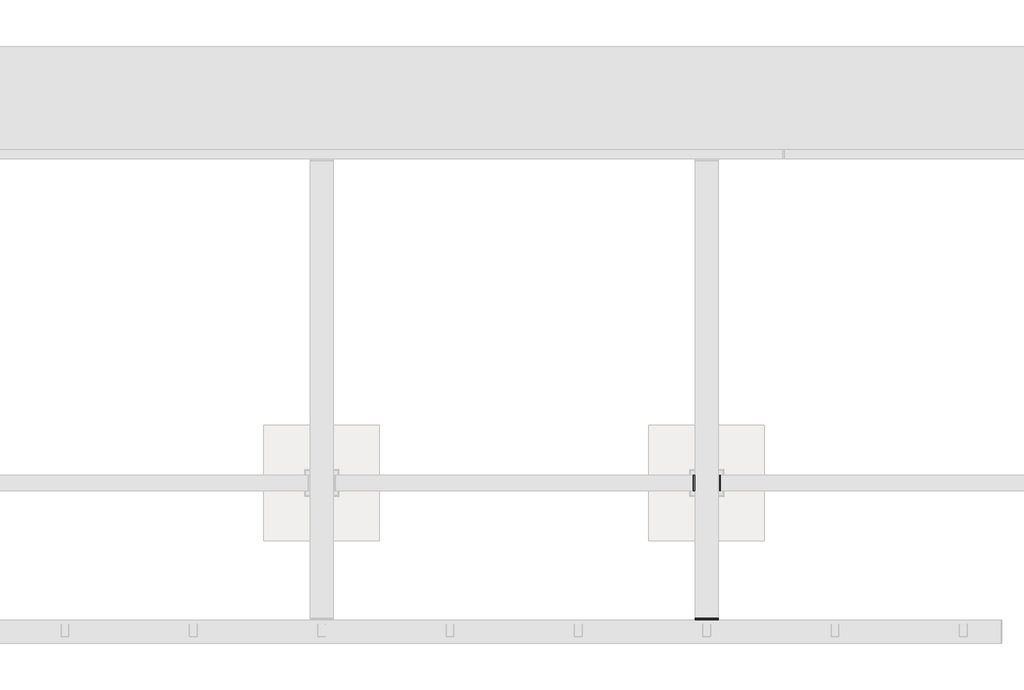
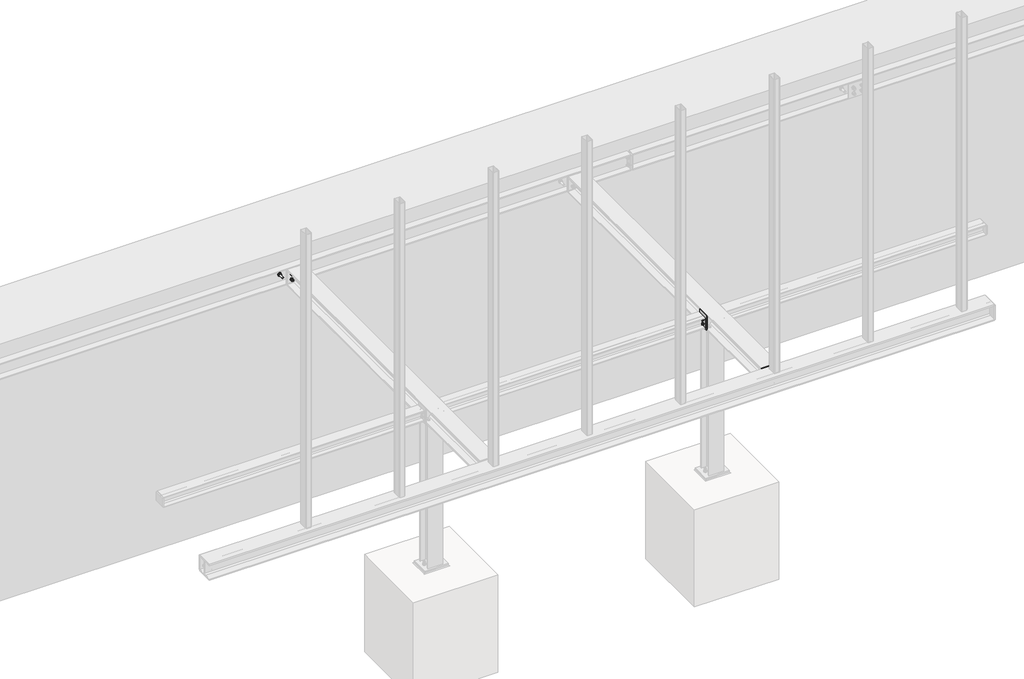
# One storey, part 7 of 31: 10 proxies.
"""IFC4 building model written with IfcOpenShell, lengths in millimetres."""

from ifc_helpers import new_model, si_unit, point, frame, frame_2d, origin, place, context, project, spatial, polyline, circle_curve, trimmed, segment, composite_curve, outline, extrude, element, save

model = new_model("IFC4")

# Units and contexts
model_context = context("Model", 3, world=origin())
ifc_project = project(units=[si_unit("LENGTHUNIT", "METRE", prefix="MILLI")], contexts=[model_context])

# Site, building, storey
site = spatial("IfcSite", under=ifc_project)
building = spatial("IfcBuilding", under=site)
storey = spatial("IfcBuildingStorey", under=building, Name="Základy", Elevation=-1200.0)

# Proxies
placement = place(None, origin())
element("IfcBuildingElementProxy", 1, Name="PLECH", ObjectType="PLECH", at=placement, inside=storey, context=model_context, shape_type="SweptSolid", body=[
    extrude(outline(polyline([(5940.0, 1200.0), (5940.0, 1320.0), (5950.0, 1320.0), (5950.0, 1200.0), (5940.0, 1200.0)])), frame((0.0, 0.0, -299.0), z_axis=(0.0, 0.0, 1.0), x_axis=(1.0, 0.0, 0.0)), (0.0, 0.0, 1.0), 98.0),
])
element("IfcBuildingElementProxy", 2, Name="PLECH", ObjectType="PLECH", at=placement, inside=storey, context=model_context, shape_type="SweptSolid", body=[
    extrude(outline(polyline([(6150.0, 1200.0), (6150.0, 1320.0), (6160.0, 1320.0), (6160.0, 1200.0), (6150.0, 1200.0)])), frame((0.0, 0.0, -299.0), z_axis=(0.0, 0.0, 1.0), x_axis=(1.0, 0.0, 0.0)), (0.0, 0.0, 1.0), 98.0),
])
element("IfcBuildingElementProxy", 3, Name="PLECH", ObjectType="PLECH", at=placement, inside=storey, context=model_context, shape_type="SweptSolid", body=[
    extrude(outline(polyline([(5950.0, 1200.0), (5950.0, 1320.0), (5960.0, 1320.0), (5960.0, 1200.0), (5950.0, 1200.0)])), frame((0.0, 0.0, -332.0), z_axis=(0.0, 0.0, 1.0), x_axis=(1.0, 0.0, 0.0)), (0.0, 0.0, 1.0), 164.0),
])
element("IfcBuildingElementProxy", 4, Name="PLECH", ObjectType="PLECH", at=placement, inside=storey, context=model_context, shape_type="SweptSolid", body=[
    extrude(outline(polyline([(5960.0, 210.0), (6140.0, 210.0), (6140.0, 200.0), (5960.0, 200.0), (5960.0, 210.0)])), frame((0.0, 0.0, -332.0), z_axis=(0.0, 0.0, 1.0), x_axis=(1.0, 0.0, 0.0)), (0.0, 0.0, 1.0), 164.0),
])
element("IfcBuildingElementProxy", 5, Name="PLECH", ObjectType="PLECH", at=placement, inside=storey, context=model_context, shape_type="SweptSolid", body=[
    extrude(outline(composite_curve([segment(polyline([(190.0, -174.0), (190.0, -326.0), (124.25, -326.0)]), True, "CONTINUOUS"), segment(trimmed(circle_curve(frame_2d((104.25, -326.0)), 20.0), [point((124.25, -326.0))], [point((104.25, -306.0))], True, "CARTESIAN"), True, "CONTINUOUS"), segment(polyline([(104.25, -306.0), (104.25, -194.0)]), True, "CONTINUOUS"), segment(trimmed(circle_curve(frame_2d((104.25, -174.0)), 20.0), [point((104.25, -194.0))], [point((124.25, -174.0))], True, "CARTESIAN"), True, "CONTINUOUS"), segment(polyline([(124.25, -174.0), (190.0, -174.0)]), True, "CONTINUOUS")], self_intersect=False)), frame((6046.0, 0.0, 0.0), z_axis=(1.0, 0.0, 0.0), x_axis=(0.0, 1.0, 0.0)), (0.0, 0.0, 1.0), 8.0),
])
element("IfcBuildingElementProxy", 6, Name="PLECH", ObjectType="PLECH", at=placement, inside=storey, context=model_context, shape_type="SweptSolid", body=[
    extrude(outline(polyline([(5960.0, 200.0), (6140.0, 200.0), (6140.0, 190.0), (5960.0, 190.0), (5960.0, 200.0)])), frame((0.0, 0.0, -332.0), z_axis=(0.0, 0.0, 1.0), x_axis=(1.0, 0.0, 0.0)), (0.0, 0.0, 1.0), 164.0),
])
element("IfcBuildingElementProxy", 7, Name="Bolt assembly", ObjectType="Bolt assembly", at=placement, inside=storey, context=model_context, shape_type="SweptSolid", body=[
    extrude(outline(composite_curve([segment(trimmed(circle_curve(frame_2d((1230.0, -225.0)), 6.5), [point((1230.0, -231.5))], [point((1230.0, -218.5))], False, "CARTESIAN"), True, "CONTINUOUS"), segment(trimmed(circle_curve(frame_2d((1230.0, -225.0)), 6.5), [point((1230.0, -218.5))], [point((1230.0, -231.5))], False, "CARTESIAN"), True, "CONTINUOUS")], self_intersect=False)), frame((5949.9, 0.0, 0.0), z_axis=(1.0, 0.0, 0.0), x_axis=(0.0, 1.0, 0.0)), (0.0, 0.0, 1.0), 10.0),
    extrude(outline(polyline([(1230.0, -235.3923048), (1221.0, -230.1961524), (1221.0, -219.8038476), (1230.0, -214.6076952), (1239.0, -219.8038476), (1239.0, -230.1961524), (1230.0, -235.3923048)])), frame((5962.5, 0.0, 0.0), z_axis=(1.0, 0.0, 0.0), x_axis=(0.0, 1.0, 0.0)), (0.0, 0.0, 1.0), 7.5),
    extrude(outline(composite_curve([segment(trimmed(circle_curve(frame_2d((1230.0, -225.0)), 6.0), [point((1230.0, -231.0))], [point((1230.0, -219.0))], False, "CARTESIAN"), True, "CONTINUOUS"), segment(trimmed(circle_curve(frame_2d((1230.0, -225.0)), 6.0), [point((1230.0, -219.0))], [point((1230.0, -231.0))], False, "CARTESIAN"), True, "CONTINUOUS")], self_intersect=False)), frame((5922.5, 0.0, 0.0), z_axis=(1.0, 0.0, 0.0), x_axis=(0.0, 1.0, 0.0)), (0.0, 0.0, 1.0), 40.0),
    extrude(outline(composite_curve([segment(trimmed(circle_curve(frame_2d((1230.0, -225.0)), 12.0), [point((1230.0, -237.0))], [point((1230.0, -213.0))], False, "CARTESIAN"), True, "CONTINUOUS"), segment(trimmed(circle_curve(frame_2d((1230.0, -225.0)), 12.0), [point((1230.0, -213.0))], [point((1230.0, -237.0))], False, "CARTESIAN"), True, "CONTINUOUS")], self_intersect=False)), frame((5960.0, 0.0, 0.0), z_axis=(1.0, 0.0, 0.0), x_axis=(0.0, 1.0, 0.0)), (0.0, 0.0, 1.0), 2.5),
    extrude(outline(composite_curve([segment(trimmed(circle_curve(frame_2d((1230.0, -225.0)), 12.0), [point((1230.0, -237.0))], [point((1230.0, -213.0))], False, "CARTESIAN"), True, "CONTINUOUS"), segment(trimmed(circle_curve(frame_2d((1230.0, -225.0)), 12.0), [point((1230.0, -213.0))], [point((1230.0, -237.0))], False, "CARTESIAN"), True, "CONTINUOUS")], self_intersect=False)), frame((5937.5, 0.0, 0.0), z_axis=(1.0, 0.0, 0.0), x_axis=(0.0, 1.0, 0.0)), (0.0, 0.0, 1.0), 2.5),
    extrude(outline(polyline([(1230.0, -235.9696551), (1220.5, -230.4848276), (1220.5, -219.5151724), (1230.0, -214.0303449), (1239.5, -219.5151724), (1239.5, -230.4848276), (1230.0, -235.9696551)])), frame((5927.5, 0.0, 0.0), z_axis=(1.0, 0.0, 0.0), x_axis=(0.0, 1.0, 0.0)), (0.0, 0.0, 1.0), 10.0),
    extrude(outline(composite_curve([segment(trimmed(circle_curve(frame_2d((1230.0, -225.0)), 6.5), [point((1230.0, -231.5))], [point((1230.0, -218.5))], False, "CARTESIAN"), True, "CONTINUOUS"), segment(trimmed(circle_curve(frame_2d((1230.0, -225.0)), 6.5), [point((1230.0, -218.5))], [point((1230.0, -231.5))], False, "CARTESIAN"), True, "CONTINUOUS")], self_intersect=False)), frame((5940.0, 0.0, 0.0), z_axis=(1.0, 0.0, 0.0), x_axis=(0.0, 1.0, 0.0)), (0.0, 0.0, 1.0), 10.1),
    extrude(outline(composite_curve([segment(trimmed(circle_curve(frame_2d((1230.0, -275.0)), 6.5), [point((1230.0, -281.5))], [point((1230.0, -268.5))], False, "CARTESIAN"), True, "CONTINUOUS"), segment(trimmed(circle_curve(frame_2d((1230.0, -275.0)), 6.5), [point((1230.0, -268.5))], [point((1230.0, -281.5))], False, "CARTESIAN"), True, "CONTINUOUS")], self_intersect=False)), frame((5949.9, 0.0, 0.0), z_axis=(1.0, 0.0, 0.0), x_axis=(0.0, 1.0, 0.0)), (0.0, 0.0, 1.0), 10.0),
    extrude(outline(polyline([(1230.0, -285.3923048), (1221.0, -280.1961524), (1221.0, -269.8038476), (1230.0, -264.6076952), (1239.0, -269.8038476), (1239.0, -280.1961524), (1230.0, -285.3923048)])), frame((5962.5, 0.0, 0.0), z_axis=(1.0, 0.0, 0.0), x_axis=(0.0, 1.0, 0.0)), (0.0, 0.0, 1.0), 7.5),
    extrude(outline(composite_curve([segment(trimmed(circle_curve(frame_2d((1230.0, -275.0)), 6.0), [point((1230.0, -281.0))], [point((1230.0, -269.0))], False, "CARTESIAN"), True, "CONTINUOUS"), segment(trimmed(circle_curve(frame_2d((1230.0, -275.0)), 6.0), [point((1230.0, -269.0))], [point((1230.0, -281.0))], False, "CARTESIAN"), True, "CONTINUOUS")], self_intersect=False)), frame((5922.5, 0.0, 0.0), z_axis=(1.0, 0.0, 0.0), x_axis=(0.0, 1.0, 0.0)), (0.0, 0.0, 1.0), 40.0),
    extrude(outline(composite_curve([segment(trimmed(circle_curve(frame_2d((1230.0, -275.0)), 12.0), [point((1230.0, -287.0))], [point((1230.0, -263.0))], False, "CARTESIAN"), True, "CONTINUOUS"), segment(trimmed(circle_curve(frame_2d((1230.0, -275.0)), 12.0), [point((1230.0, -263.0))], [point((1230.0, -287.0))], False, "CARTESIAN"), True, "CONTINUOUS")], self_intersect=False)), frame((5960.0, 0.0, 0.0), z_axis=(1.0, 0.0, 0.0), x_axis=(0.0, 1.0, 0.0)), (0.0, 0.0, 1.0), 2.5),
    extrude(outline(composite_curve([segment(trimmed(circle_curve(frame_2d((1230.0, -275.0)), 12.0), [point((1230.0, -287.0))], [point((1230.0, -263.0))], False, "CARTESIAN"), True, "CONTINUOUS"), segment(trimmed(circle_curve(frame_2d((1230.0, -275.0)), 12.0), [point((1230.0, -263.0))], [point((1230.0, -287.0))], False, "CARTESIAN"), True, "CONTINUOUS")], self_intersect=False)), frame((5937.5, 0.0, 0.0), z_axis=(1.0, 0.0, 0.0), x_axis=(0.0, 1.0, 0.0)), (0.0, 0.0, 1.0), 2.5),
    extrude(outline(polyline([(1230.0, -285.9696551), (1220.5, -280.4848276), (1220.5, -269.5151724), (1230.0, -264.0303449), (1239.5, -269.5151724), (1239.5, -280.4848276), (1230.0, -285.9696551)])), frame((5927.5, 0.0, 0.0), z_axis=(1.0, 0.0, 0.0), x_axis=(0.0, 1.0, 0.0)), (0.0, 0.0, 1.0), 10.0),
    extrude(outline(composite_curve([segment(trimmed(circle_curve(frame_2d((1230.0, -275.0)), 6.5), [point((1230.0, -281.5))], [point((1230.0, -268.5))], False, "CARTESIAN"), True, "CONTINUOUS"), segment(trimmed(circle_curve(frame_2d((1230.0, -275.0)), 6.5), [point((1230.0, -268.5))], [point((1230.0, -281.5))], False, "CARTESIAN"), True, "CONTINUOUS")], self_intersect=False)), frame((5940.0, 0.0, 0.0), z_axis=(1.0, 0.0, 0.0), x_axis=(0.0, 1.0, 0.0)), (0.0, 0.0, 1.0), 10.1),
    extrude(outline(composite_curve([segment(trimmed(circle_curve(frame_2d((1290.0, -225.0)), 6.5), [point((1290.0, -231.5))], [point((1290.0, -218.5))], False, "CARTESIAN"), True, "CONTINUOUS"), segment(trimmed(circle_curve(frame_2d((1290.0, -225.0)), 6.5), [point((1290.0, -218.5))], [point((1290.0, -231.5))], False, "CARTESIAN"), True, "CONTINUOUS")], self_intersect=False)), frame((5949.9, 0.0, 0.0), z_axis=(1.0, 0.0, 0.0), x_axis=(0.0, 1.0, 0.0)), (0.0, 0.0, 1.0), 10.0),
    extrude(outline(polyline([(1290.0, -235.3923048), (1281.0, -230.1961524), (1281.0, -219.8038476), (1290.0, -214.6076952), (1299.0, -219.8038476), (1299.0, -230.1961524), (1290.0, -235.3923048)])), frame((5962.5, 0.0, 0.0), z_axis=(1.0, 0.0, 0.0), x_axis=(0.0, 1.0, 0.0)), (0.0, 0.0, 1.0), 7.5),
    extrude(outline(composite_curve([segment(trimmed(circle_curve(frame_2d((1290.0, -225.0)), 6.0), [point((1290.0, -231.0))], [point((1290.0, -219.0))], False, "CARTESIAN"), True, "CONTINUOUS"), segment(trimmed(circle_curve(frame_2d((1290.0, -225.0)), 6.0), [point((1290.0, -219.0))], [point((1290.0, -231.0))], False, "CARTESIAN"), True, "CONTINUOUS")], self_intersect=False)), frame((5922.5, 0.0, 0.0), z_axis=(1.0, 0.0, 0.0), x_axis=(0.0, 1.0, 0.0)), (0.0, 0.0, 1.0), 40.0),
    extrude(outline(composite_curve([segment(trimmed(circle_curve(frame_2d((1290.0, -225.0)), 12.0), [point((1290.0, -237.0))], [point((1290.0, -213.0))], False, "CARTESIAN"), True, "CONTINUOUS"), segment(trimmed(circle_curve(frame_2d((1290.0, -225.0)), 12.0), [point((1290.0, -213.0))], [point((1290.0, -237.0))], False, "CARTESIAN"), True, "CONTINUOUS")], self_intersect=False)), frame((5960.0, 0.0, 0.0), z_axis=(1.0, 0.0, 0.0), x_axis=(0.0, 1.0, 0.0)), (0.0, 0.0, 1.0), 2.5),
    extrude(outline(composite_curve([segment(trimmed(circle_curve(frame_2d((1290.0, -225.0)), 12.0), [point((1290.0, -237.0))], [point((1290.0, -213.0))], False, "CARTESIAN"), True, "CONTINUOUS"), segment(trimmed(circle_curve(frame_2d((1290.0, -225.0)), 12.0), [point((1290.0, -213.0))], [point((1290.0, -237.0))], False, "CARTESIAN"), True, "CONTINUOUS")], self_intersect=False)), frame((5937.5, 0.0, 0.0), z_axis=(1.0, 0.0, 0.0), x_axis=(0.0, 1.0, 0.0)), (0.0, 0.0, 1.0), 2.5),
    extrude(outline(polyline([(1290.0, -235.9696551), (1280.5, -230.4848276), (1280.5, -219.5151724), (1290.0, -214.0303449), (1299.5, -219.5151724), (1299.5, -230.4848276), (1290.0, -235.9696551)])), frame((5927.5, 0.0, 0.0), z_axis=(1.0, 0.0, 0.0), x_axis=(0.0, 1.0, 0.0)), (0.0, 0.0, 1.0), 10.0),
    extrude(outline(composite_curve([segment(trimmed(circle_curve(frame_2d((1290.0, -225.0)), 6.5), [point((1290.0, -231.5))], [point((1290.0, -218.5))], False, "CARTESIAN"), True, "CONTINUOUS"), segment(trimmed(circle_curve(frame_2d((1290.0, -225.0)), 6.5), [point((1290.0, -218.5))], [point((1290.0, -231.5))], False, "CARTESIAN"), True, "CONTINUOUS")], self_intersect=False)), frame((5940.0, 0.0, 0.0), z_axis=(1.0, 0.0, 0.0), x_axis=(0.0, 1.0, 0.0)), (0.0, 0.0, 1.0), 10.1),
    extrude(outline(composite_curve([segment(trimmed(circle_curve(frame_2d((1290.0, -275.0)), 6.5), [point((1290.0, -281.5))], [point((1290.0, -268.5))], False, "CARTESIAN"), True, "CONTINUOUS"), segment(trimmed(circle_curve(frame_2d((1290.0, -275.0)), 6.5), [point((1290.0, -268.5))], [point((1290.0, -281.5))], False, "CARTESIAN"), True, "CONTINUOUS")], self_intersect=False)), frame((5949.9, 0.0, 0.0), z_axis=(1.0, 0.0, 0.0), x_axis=(0.0, 1.0, 0.0)), (0.0, 0.0, 1.0), 10.0),
    extrude(outline(polyline([(1290.0, -285.3923048), (1281.0, -280.1961524), (1281.0, -269.8038476), (1290.0, -264.6076952), (1299.0, -269.8038476), (1299.0, -280.1961524), (1290.0, -285.3923048)])), frame((5962.5, 0.0, 0.0), z_axis=(1.0, 0.0, 0.0), x_axis=(0.0, 1.0, 0.0)), (0.0, 0.0, 1.0), 7.5),
    extrude(outline(composite_curve([segment(trimmed(circle_curve(frame_2d((1290.0, -275.0)), 6.0), [point((1290.0, -281.0))], [point((1290.0, -269.0))], False, "CARTESIAN"), True, "CONTINUOUS"), segment(trimmed(circle_curve(frame_2d((1290.0, -275.0)), 6.0), [point((1290.0, -269.0))], [point((1290.0, -281.0))], False, "CARTESIAN"), True, "CONTINUOUS")], self_intersect=False)), frame((5922.5, 0.0, 0.0), z_axis=(1.0, 0.0, 0.0), x_axis=(0.0, 1.0, 0.0)), (0.0, 0.0, 1.0), 40.0),
    extrude(outline(composite_curve([segment(trimmed(circle_curve(frame_2d((1290.0, -275.0)), 12.0), [point((1290.0, -287.0))], [point((1290.0, -263.0))], False, "CARTESIAN"), True, "CONTINUOUS"), segment(trimmed(circle_curve(frame_2d((1290.0, -275.0)), 12.0), [point((1290.0, -263.0))], [point((1290.0, -287.0))], False, "CARTESIAN"), True, "CONTINUOUS")], self_intersect=False)), frame((5960.0, 0.0, 0.0), z_axis=(1.0, 0.0, 0.0), x_axis=(0.0, 1.0, 0.0)), (0.0, 0.0, 1.0), 2.5),
    extrude(outline(composite_curve([segment(trimmed(circle_curve(frame_2d((1290.0, -275.0)), 12.0), [point((1290.0, -287.0))], [point((1290.0, -263.0))], False, "CARTESIAN"), True, "CONTINUOUS"), segment(trimmed(circle_curve(frame_2d((1290.0, -275.0)), 12.0), [point((1290.0, -263.0))], [point((1290.0, -287.0))], False, "CARTESIAN"), True, "CONTINUOUS")], self_intersect=False)), frame((5937.5, 0.0, 0.0), z_axis=(1.0, 0.0, 0.0), x_axis=(0.0, 1.0, 0.0)), (0.0, 0.0, 1.0), 2.5),
    extrude(outline(polyline([(1290.0, -285.9696551), (1280.5, -280.4848276), (1280.5, -269.5151724), (1290.0, -264.0303449), (1299.5, -269.5151724), (1299.5, -280.4848276), (1290.0, -285.9696551)])), frame((5927.5, 0.0, 0.0), z_axis=(1.0, 0.0, 0.0), x_axis=(0.0, 1.0, 0.0)), (0.0, 0.0, 1.0), 10.0),
    extrude(outline(composite_curve([segment(trimmed(circle_curve(frame_2d((1290.0, -275.0)), 6.5), [point((1290.0, -281.5))], [point((1290.0, -268.5))], False, "CARTESIAN"), True, "CONTINUOUS"), segment(trimmed(circle_curve(frame_2d((1290.0, -275.0)), 6.5), [point((1290.0, -268.5))], [point((1290.0, -281.5))], False, "CARTESIAN"), True, "CONTINUOUS")], self_intersect=False)), frame((5940.0, 0.0, 0.0), z_axis=(1.0, 0.0, 0.0), x_axis=(0.0, 1.0, 0.0)), (0.0, 0.0, 1.0), 10.1),
])
element("IfcBuildingElementProxy", 8, Name="Bolt assembly", ObjectType="Bolt assembly", at=placement, inside=storey, context=model_context, shape_type="SweptSolid", body=[
    extrude(outline(composite_curve([segment(trimmed(circle_curve(frame_2d((-220.0, 3005.0)), 9.0), [point((-220.0, 3014.0))], [point((-220.0, 2996.0))], False, "CARTESIAN"), True, "CONTINUOUS"), segment(trimmed(circle_curve(frame_2d((-220.0, 3005.0)), 9.0), [point((-220.0, 2996.0))], [point((-220.0, 3014.0))], False, "CARTESIAN"), True, "CONTINUOUS")], self_intersect=False)), frame((0.0, 3774.9, 0.0), z_axis=(0.0, 1.0, 0.0), x_axis=(0.0, 0.0, 1.0)), (0.0, 0.0, 1.0), 10.0),
    extrude(outline(polyline([(-220.0, 3018.8564065), (-208.0, 3011.9282032), (-208.0, 2998.0717968), (-220.0, 2991.1435935), (-232.0, 2998.0717968), (-232.0, 3011.9282032), (-220.0, 3018.8564065)])), frame((0.0, 3788.0, 0.0), z_axis=(0.0, 1.0, 0.0), x_axis=(0.0, 0.0, 1.0)), (0.0, 0.0, 1.0), 10.0),
    extrude(outline(composite_curve([segment(trimmed(circle_curve(frame_2d((-220.0, 3005.0)), 8.0), [point((-220.0, 3013.0))], [point((-220.0, 2997.0))], False, "CARTESIAN"), True, "CONTINUOUS"), segment(trimmed(circle_curve(frame_2d((-220.0, 3005.0)), 8.0), [point((-220.0, 2997.0))], [point((-220.0, 3013.0))], False, "CARTESIAN"), True, "CONTINUOUS")], self_intersect=False)), frame((0.0, 3738.0, 0.0), z_axis=(0.0, 1.0, 0.0), x_axis=(0.0, 0.0, 1.0)), (0.0, 0.0, 1.0), 50.0),
    extrude(outline(composite_curve([segment(trimmed(circle_curve(frame_2d((-220.0, 3005.0)), 15.0), [point((-220.0, 3020.0))], [point((-220.0, 2990.0))], False, "CARTESIAN"), True, "CONTINUOUS"), segment(trimmed(circle_curve(frame_2d((-220.0, 3005.0)), 15.0), [point((-220.0, 2990.0))], [point((-220.0, 3020.0))], False, "CARTESIAN"), True, "CONTINUOUS")], self_intersect=False)), frame((0.0, 3785.0, 0.0), z_axis=(0.0, 1.0, 0.0), x_axis=(0.0, 0.0, 1.0)), (0.0, 0.0, 1.0), 3.0),
    extrude(outline(composite_curve([segment(trimmed(circle_curve(frame_2d((-220.0, 3005.0)), 15.0), [point((-220.0, 3020.0))], [point((-220.0, 2990.0))], False, "CARTESIAN"), True, "CONTINUOUS"), segment(trimmed(circle_curve(frame_2d((-220.0, 3005.0)), 15.0), [point((-220.0, 2990.0))], [point((-220.0, 3020.0))], False, "CARTESIAN"), True, "CONTINUOUS")], self_intersect=False)), frame((0.0, 3764.0, 0.0), z_axis=(0.0, 1.0, 0.0), x_axis=(0.0, 0.0, 1.0)), (0.0, 0.0, 1.0), 3.0),
    extrude(outline(polyline([(-220.0, 3020.4441197), (-206.625, 3012.7220599), (-206.625, 2997.2779401), (-220.0, 2989.5558803), (-233.375, 2997.2779401), (-233.375, 3012.7220599), (-220.0, 3020.4441197)])), frame((0.0, 3751.0, 0.0), z_axis=(0.0, 1.0, 0.0), x_axis=(0.0, 0.0, 1.0)), (0.0, 0.0, 1.0), 13.0),
    extrude(outline(composite_curve([segment(trimmed(circle_curve(frame_2d((-220.0, 3005.0)), 9.0), [point((-220.0, 3014.0))], [point((-220.0, 2996.0))], False, "CARTESIAN"), True, "CONTINUOUS"), segment(trimmed(circle_curve(frame_2d((-220.0, 3005.0)), 9.0), [point((-220.0, 2996.0))], [point((-220.0, 3014.0))], False, "CARTESIAN"), True, "CONTINUOUS")], self_intersect=False)), frame((0.0, 3767.0, 0.0), z_axis=(0.0, 1.0, 0.0), x_axis=(0.0, 0.0, 1.0)), (0.0, 0.0, 1.0), 8.1),
    extrude(outline(composite_curve([segment(trimmed(circle_curve(frame_2d((-220.0, 3095.0)), 9.0), [point((-220.0, 3104.0))], [point((-220.0, 3086.0))], False, "CARTESIAN"), True, "CONTINUOUS"), segment(trimmed(circle_curve(frame_2d((-220.0, 3095.0)), 9.0), [point((-220.0, 3086.0))], [point((-220.0, 3104.0))], False, "CARTESIAN"), True, "CONTINUOUS")], self_intersect=False)), frame((0.0, 3774.9, 0.0), z_axis=(0.0, 1.0, 0.0), x_axis=(0.0, 0.0, 1.0)), (0.0, 0.0, 1.0), 10.0),
    extrude(outline(polyline([(-220.0, 3108.8564065), (-208.0, 3101.9282032), (-208.0, 3088.0717968), (-220.0, 3081.1435935), (-232.0, 3088.0717968), (-232.0, 3101.9282032), (-220.0, 3108.8564065)])), frame((0.0, 3788.0, 0.0), z_axis=(0.0, 1.0, 0.0), x_axis=(0.0, 0.0, 1.0)), (0.0, 0.0, 1.0), 10.0),
    extrude(outline(composite_curve([segment(trimmed(circle_curve(frame_2d((-220.0, 3095.0)), 8.0), [point((-220.0, 3103.0))], [point((-220.0, 3087.0))], False, "CARTESIAN"), True, "CONTINUOUS"), segment(trimmed(circle_curve(frame_2d((-220.0, 3095.0)), 8.0), [point((-220.0, 3087.0))], [point((-220.0, 3103.0))], False, "CARTESIAN"), True, "CONTINUOUS")], self_intersect=False)), frame((0.0, 3738.0, 0.0), z_axis=(0.0, 1.0, 0.0), x_axis=(0.0, 0.0, 1.0)), (0.0, 0.0, 1.0), 50.0),
    extrude(outline(composite_curve([segment(trimmed(circle_curve(frame_2d((-220.0, 3095.0)), 15.0), [point((-220.0, 3110.0))], [point((-220.0, 3080.0))], False, "CARTESIAN"), True, "CONTINUOUS"), segment(trimmed(circle_curve(frame_2d((-220.0, 3095.0)), 15.0), [point((-220.0, 3080.0))], [point((-220.0, 3110.0))], False, "CARTESIAN"), True, "CONTINUOUS")], self_intersect=False)), frame((0.0, 3785.0, 0.0), z_axis=(0.0, 1.0, 0.0), x_axis=(0.0, 0.0, 1.0)), (0.0, 0.0, 1.0), 3.0),
    extrude(outline(composite_curve([segment(trimmed(circle_curve(frame_2d((-220.0, 3095.0)), 15.0), [point((-220.0, 3110.0))], [point((-220.0, 3080.0))], False, "CARTESIAN"), True, "CONTINUOUS"), segment(trimmed(circle_curve(frame_2d((-220.0, 3095.0)), 15.0), [point((-220.0, 3080.0))], [point((-220.0, 3110.0))], False, "CARTESIAN"), True, "CONTINUOUS")], self_intersect=False)), frame((0.0, 3764.0, 0.0), z_axis=(0.0, 1.0, 0.0), x_axis=(0.0, 0.0, 1.0)), (0.0, 0.0, 1.0), 3.0),
    extrude(outline(polyline([(-220.0, 3110.4441197), (-206.625, 3102.7220599), (-206.625, 3087.2779401), (-220.0, 3079.5558803), (-233.375, 3087.2779401), (-233.375, 3102.7220599), (-220.0, 3110.4441197)])), frame((0.0, 3751.0, 0.0), z_axis=(0.0, 1.0, 0.0), x_axis=(0.0, 0.0, 1.0)), (0.0, 0.0, 1.0), 13.0),
    extrude(outline(composite_curve([segment(trimmed(circle_curve(frame_2d((-220.0, 3095.0)), 9.0), [point((-220.0, 3104.0))], [point((-220.0, 3086.0))], False, "CARTESIAN"), True, "CONTINUOUS"), segment(trimmed(circle_curve(frame_2d((-220.0, 3095.0)), 9.0), [point((-220.0, 3086.0))], [point((-220.0, 3104.0))], False, "CARTESIAN"), True, "CONTINUOUS")], self_intersect=False)), frame((0.0, 3767.0, 0.0), z_axis=(0.0, 1.0, 0.0), x_axis=(0.0, 0.0, 1.0)), (0.0, 0.0, 1.0), 8.1),
    extrude(outline(composite_curve([segment(trimmed(circle_curve(frame_2d((-280.0, 3005.0)), 9.0), [point((-280.0, 3014.0))], [point((-280.0, 2996.0))], False, "CARTESIAN"), True, "CONTINUOUS"), segment(trimmed(circle_curve(frame_2d((-280.0, 3005.0)), 9.0), [point((-280.0, 2996.0))], [point((-280.0, 3014.0))], False, "CARTESIAN"), True, "CONTINUOUS")], self_intersect=False)), frame((0.0, 3774.9, 0.0), z_axis=(0.0, 1.0, 0.0), x_axis=(0.0, 0.0, 1.0)), (0.0, 0.0, 1.0), 10.0),
    extrude(outline(polyline([(-280.0, 3018.8564065), (-268.0, 3011.9282032), (-268.0, 2998.0717968), (-280.0, 2991.1435935), (-292.0, 2998.0717968), (-292.0, 3011.9282032), (-280.0, 3018.8564065)])), frame((0.0, 3788.0, 0.0), z_axis=(0.0, 1.0, 0.0), x_axis=(0.0, 0.0, 1.0)), (0.0, 0.0, 1.0), 10.0),
    extrude(outline(composite_curve([segment(trimmed(circle_curve(frame_2d((-280.0, 3005.0)), 8.0), [point((-280.0, 3013.0))], [point((-280.0, 2997.0))], False, "CARTESIAN"), True, "CONTINUOUS"), segment(trimmed(circle_curve(frame_2d((-280.0, 3005.0)), 8.0), [point((-280.0, 2997.0))], [point((-280.0, 3013.0))], False, "CARTESIAN"), True, "CONTINUOUS")], self_intersect=False)), frame((0.0, 3738.0, 0.0), z_axis=(0.0, 1.0, 0.0), x_axis=(0.0, 0.0, 1.0)), (0.0, 0.0, 1.0), 50.0),
    extrude(outline(composite_curve([segment(trimmed(circle_curve(frame_2d((-280.0, 3005.0)), 15.0), [point((-280.0, 3020.0))], [point((-280.0, 2990.0))], False, "CARTESIAN"), True, "CONTINUOUS"), segment(trimmed(circle_curve(frame_2d((-280.0, 3005.0)), 15.0), [point((-280.0, 2990.0))], [point((-280.0, 3020.0))], False, "CARTESIAN"), True, "CONTINUOUS")], self_intersect=False)), frame((0.0, 3785.0, 0.0), z_axis=(0.0, 1.0, 0.0), x_axis=(0.0, 0.0, 1.0)), (0.0, 0.0, 1.0), 3.0),
    extrude(outline(composite_curve([segment(trimmed(circle_curve(frame_2d((-280.0, 3005.0)), 15.0), [point((-280.0, 3020.0))], [point((-280.0, 2990.0))], False, "CARTESIAN"), True, "CONTINUOUS"), segment(trimmed(circle_curve(frame_2d((-280.0, 3005.0)), 15.0), [point((-280.0, 2990.0))], [point((-280.0, 3020.0))], False, "CARTESIAN"), True, "CONTINUOUS")], self_intersect=False)), frame((0.0, 3764.0, 0.0), z_axis=(0.0, 1.0, 0.0), x_axis=(0.0, 0.0, 1.0)), (0.0, 0.0, 1.0), 3.0),
    extrude(outline(polyline([(-280.0, 3020.4441197), (-266.625, 3012.7220599), (-266.625, 2997.2779401), (-280.0, 2989.5558803), (-293.375, 2997.2779401), (-293.375, 3012.7220599), (-280.0, 3020.4441197)])), frame((0.0, 3751.0, 0.0), z_axis=(0.0, 1.0, 0.0), x_axis=(0.0, 0.0, 1.0)), (0.0, 0.0, 1.0), 13.0),
    extrude(outline(composite_curve([segment(trimmed(circle_curve(frame_2d((-280.0, 3005.0)), 9.0), [point((-280.0, 3014.0))], [point((-280.0, 2996.0))], False, "CARTESIAN"), True, "CONTINUOUS"), segment(trimmed(circle_curve(frame_2d((-280.0, 3005.0)), 9.0), [point((-280.0, 2996.0))], [point((-280.0, 3014.0))], False, "CARTESIAN"), True, "CONTINUOUS")], self_intersect=False)), frame((0.0, 3767.0, 0.0), z_axis=(0.0, 1.0, 0.0), x_axis=(0.0, 0.0, 1.0)), (0.0, 0.0, 1.0), 8.1),
    extrude(outline(composite_curve([segment(trimmed(circle_curve(frame_2d((-280.0, 3095.0)), 9.0), [point((-280.0, 3104.0))], [point((-280.0, 3086.0))], False, "CARTESIAN"), True, "CONTINUOUS"), segment(trimmed(circle_curve(frame_2d((-280.0, 3095.0)), 9.0), [point((-280.0, 3086.0))], [point((-280.0, 3104.0))], False, "CARTESIAN"), True, "CONTINUOUS")], self_intersect=False)), frame((0.0, 3774.9, 0.0), z_axis=(0.0, 1.0, 0.0), x_axis=(0.0, 0.0, 1.0)), (0.0, 0.0, 1.0), 10.0),
    extrude(outline(polyline([(-280.0, 3108.8564065), (-268.0, 3101.9282032), (-268.0, 3088.0717968), (-280.0, 3081.1435935), (-292.0, 3088.0717968), (-292.0, 3101.9282032), (-280.0, 3108.8564065)])), frame((0.0, 3788.0, 0.0), z_axis=(0.0, 1.0, 0.0), x_axis=(0.0, 0.0, 1.0)), (0.0, 0.0, 1.0), 10.0),
    extrude(outline(composite_curve([segment(trimmed(circle_curve(frame_2d((-280.0, 3095.0)), 8.0), [point((-280.0, 3103.0))], [point((-280.0, 3087.0))], False, "CARTESIAN"), True, "CONTINUOUS"), segment(trimmed(circle_curve(frame_2d((-280.0, 3095.0)), 8.0), [point((-280.0, 3087.0))], [point((-280.0, 3103.0))], False, "CARTESIAN"), True, "CONTINUOUS")], self_intersect=False)), frame((0.0, 3738.0, 0.0), z_axis=(0.0, 1.0, 0.0), x_axis=(0.0, 0.0, 1.0)), (0.0, 0.0, 1.0), 50.0),
    extrude(outline(composite_curve([segment(trimmed(circle_curve(frame_2d((-280.0, 3095.0)), 15.0), [point((-280.0, 3110.0))], [point((-280.0, 3080.0))], False, "CARTESIAN"), True, "CONTINUOUS"), segment(trimmed(circle_curve(frame_2d((-280.0, 3095.0)), 15.0), [point((-280.0, 3080.0))], [point((-280.0, 3110.0))], False, "CARTESIAN"), True, "CONTINUOUS")], self_intersect=False)), frame((0.0, 3785.0, 0.0), z_axis=(0.0, 1.0, 0.0), x_axis=(0.0, 0.0, 1.0)), (0.0, 0.0, 1.0), 3.0),
    extrude(outline(composite_curve([segment(trimmed(circle_curve(frame_2d((-280.0, 3095.0)), 15.0), [point((-280.0, 3110.0))], [point((-280.0, 3080.0))], False, "CARTESIAN"), True, "CONTINUOUS"), segment(trimmed(circle_curve(frame_2d((-280.0, 3095.0)), 15.0), [point((-280.0, 3080.0))], [point((-280.0, 3110.0))], False, "CARTESIAN"), True, "CONTINUOUS")], self_intersect=False)), frame((0.0, 3764.0, 0.0), z_axis=(0.0, 1.0, 0.0), x_axis=(0.0, 0.0, 1.0)), (0.0, 0.0, 1.0), 3.0),
    extrude(outline(polyline([(-280.0, 3110.4441197), (-266.625, 3102.7220599), (-266.625, 3087.2779401), (-280.0, 3079.5558803), (-293.375, 3087.2779401), (-293.375, 3102.7220599), (-280.0, 3110.4441197)])), frame((0.0, 3751.0, 0.0), z_axis=(0.0, 1.0, 0.0), x_axis=(0.0, 0.0, 1.0)), (0.0, 0.0, 1.0), 13.0),
    extrude(outline(composite_curve([segment(trimmed(circle_curve(frame_2d((-280.0, 3095.0)), 9.0), [point((-280.0, 3104.0))], [point((-280.0, 3086.0))], False, "CARTESIAN"), True, "CONTINUOUS"), segment(trimmed(circle_curve(frame_2d((-280.0, 3095.0)), 9.0), [point((-280.0, 3086.0))], [point((-280.0, 3104.0))], False, "CARTESIAN"), True, "CONTINUOUS")], self_intersect=False)), frame((0.0, 3767.0, 0.0), z_axis=(0.0, 1.0, 0.0), x_axis=(0.0, 0.0, 1.0)), (0.0, 0.0, 1.0), 8.1),
])
element("IfcBuildingElementProxy", 9, Name="Bolt assembly", ObjectType="Bolt assembly", at=placement, inside=storey, context=model_context, shape_type="SweptSolid", body=[
    extrude(outline(polyline([(-250.0, 2934.8149546), (-241.5, 2929.9074773), (-241.5, 2920.0925227), (-250.0, 2915.1850454), (-258.5, 2920.0925227), (-258.5, 2929.9074773), (-250.0, 2934.8149546)])), frame((0.0, 3860.0, 0.0), z_axis=(0.0, 1.0, 0.0), x_axis=(0.0, 0.0, 1.0)), (0.0, 0.0, 1.0), 168.0),
    extrude(outline(composite_curve([segment(trimmed(circle_curve(frame_2d((-250.0, 2925.0)), 10.0), [point((-250.0, 2935.0))], [point((-250.0, 2915.0))], False, "CARTESIAN"), True, "CONTINUOUS"), segment(trimmed(circle_curve(frame_2d((-250.0, 2925.0)), 10.0), [point((-250.0, 2915.0))], [point((-250.0, 2935.0))], False, "CARTESIAN"), True, "CONTINUOUS")], self_intersect=False)), frame((0.0, 3788.0, 0.0), z_axis=(0.0, 1.0, 0.0), x_axis=(0.0, 0.0, 1.0)), (0.0, 0.0, 1.0), 72.0),
    extrude(outline(composite_curve([segment(trimmed(circle_curve(frame_2d((-250.0, 2925.0)), 18.5), [point((-250.0, 2943.5))], [point((-250.0, 2906.5))], False, "CARTESIAN"), True, "CONTINUOUS"), segment(trimmed(circle_curve(frame_2d((-250.0, 2925.0)), 18.5), [point((-250.0, 2906.5))], [point((-250.0, 2943.5))], False, "CARTESIAN"), True, "CONTINUOUS")], self_intersect=False)), frame((0.0, 3851.5, 0.0), z_axis=(0.0, 1.0, 0.0), x_axis=(0.0, 0.0, 1.0)), (0.0, 0.0, 1.0), 3.0),
    extrude(outline(polyline([(-250.0, 2942.3205081), (-235.0, 2933.660254), (-235.0, 2916.339746), (-250.0, 2907.6794919), (-265.0, 2916.339746), (-265.0, 2933.660254), (-250.0, 2942.3205081)])), frame((0.0, 3835.5, 0.0), z_axis=(0.0, 1.0, 0.0), x_axis=(0.0, 0.0, 1.0)), (0.0, 0.0, 1.0), 16.0),
    extrude(outline(composite_curve([segment(trimmed(circle_curve(frame_2d((-250.0, 2925.0)), 11.0), [point((-250.0, 2936.0))], [point((-250.0, 2914.0))], False, "CARTESIAN"), True, "CONTINUOUS"), segment(trimmed(circle_curve(frame_2d((-250.0, 2925.0)), 11.0), [point((-250.0, 2914.0))], [point((-250.0, 2936.0))], False, "CARTESIAN"), True, "CONTINUOUS")], self_intersect=False)), frame((0.0, 3854.4, 0.0), z_axis=(0.0, 1.0, 0.0), x_axis=(0.0, 0.0, 1.0)), (0.0, 0.0, 1.0), 5.6),
    extrude(outline(polyline([(-250.0, 3184.8149546), (-241.5, 3179.9074773), (-241.5, 3170.0925227), (-250.0, 3165.1850454), (-258.5, 3170.0925227), (-258.5, 3179.9074773), (-250.0, 3184.8149546)])), frame((0.0, 3860.0, 0.0), z_axis=(0.0, 1.0, 0.0), x_axis=(0.0, 0.0, 1.0)), (0.0, 0.0, 1.0), 168.0),
    extrude(outline(composite_curve([segment(trimmed(circle_curve(frame_2d((-250.0, 3175.0)), 10.0), [point((-250.0, 3185.0))], [point((-250.0, 3165.0))], False, "CARTESIAN"), True, "CONTINUOUS"), segment(trimmed(circle_curve(frame_2d((-250.0, 3175.0)), 10.0), [point((-250.0, 3165.0))], [point((-250.0, 3185.0))], False, "CARTESIAN"), True, "CONTINUOUS")], self_intersect=False)), frame((0.0, 3788.0, 0.0), z_axis=(0.0, 1.0, 0.0), x_axis=(0.0, 0.0, 1.0)), (0.0, 0.0, 1.0), 72.0),
    extrude(outline(composite_curve([segment(trimmed(circle_curve(frame_2d((-250.0, 3175.0)), 18.5), [point((-250.0, 3193.5))], [point((-250.0, 3156.5))], False, "CARTESIAN"), True, "CONTINUOUS"), segment(trimmed(circle_curve(frame_2d((-250.0, 3175.0)), 18.5), [point((-250.0, 3156.5))], [point((-250.0, 3193.5))], False, "CARTESIAN"), True, "CONTINUOUS")], self_intersect=False)), frame((0.0, 3851.5, 0.0), z_axis=(0.0, 1.0, 0.0), x_axis=(0.0, 0.0, 1.0)), (0.0, 0.0, 1.0), 3.0),
    extrude(outline(polyline([(-250.0, 3192.3205081), (-235.0, 3183.660254), (-235.0, 3166.339746), (-250.0, 3157.6794919), (-265.0, 3166.339746), (-265.0, 3183.660254), (-250.0, 3192.3205081)])), frame((0.0, 3835.5, 0.0), z_axis=(0.0, 1.0, 0.0), x_axis=(0.0, 0.0, 1.0)), (0.0, 0.0, 1.0), 16.0),
    extrude(outline(composite_curve([segment(trimmed(circle_curve(frame_2d((-250.0, 3175.0)), 11.0), [point((-250.0, 3186.0))], [point((-250.0, 3164.0))], False, "CARTESIAN"), True, "CONTINUOUS"), segment(trimmed(circle_curve(frame_2d((-250.0, 3175.0)), 11.0), [point((-250.0, 3164.0))], [point((-250.0, 3186.0))], False, "CARTESIAN"), True, "CONTINUOUS")], self_intersect=False)), frame((0.0, 3854.4, 0.0), z_axis=(0.0, 1.0, 0.0), x_axis=(0.0, 0.0, 1.0)), (0.0, 0.0, 1.0), 5.6),
])
element("IfcBuildingElementProxy", 10, Name="Bolt assembly", ObjectType="Bolt assembly", at=placement, inside=storey, context=model_context, shape_type="SweptSolid", body=[
    extrude(outline(composite_curve([segment(trimmed(circle_curve(frame_2d((-290.0, 6005.0)), 9.0), [point((-290.0, 6014.0))], [point((-290.0, 5996.0))], False, "CARTESIAN"), True, "CONTINUOUS"), segment(trimmed(circle_curve(frame_2d((-290.0, 6005.0)), 9.0), [point((-290.0, 5996.0))], [point((-290.0, 6014.0))], False, "CARTESIAN"), True, "CONTINUOUS")], self_intersect=False)), frame((0.0, 190.1, 0.0), z_axis=(0.0, 1.0, 0.0), x_axis=(0.0, 0.0, 1.0)), (0.0, 0.0, 1.0), 10.0),
    extrude(outline(polyline([(-290.0, 6018.8564065), (-278.0, 6011.9282032), (-278.0, 5998.0717968), (-290.0, 5991.1435935), (-302.0, 5998.0717968), (-302.0, 6011.9282032), (-290.0, 6018.8564065)])), frame((0.0, 177.0, 0.0), z_axis=(0.0, 1.0, 0.0), x_axis=(0.0, 0.0, 1.0)), (0.0, 0.0, 1.0), 10.0),
    extrude(outline(composite_curve([segment(trimmed(circle_curve(frame_2d((-290.0, 6005.0)), 8.0), [point((-290.0, 6013.0))], [point((-290.0, 5997.0))], False, "CARTESIAN"), True, "CONTINUOUS"), segment(trimmed(circle_curve(frame_2d((-290.0, 6005.0)), 8.0), [point((-290.0, 5997.0))], [point((-290.0, 6013.0))], False, "CARTESIAN"), True, "CONTINUOUS")], self_intersect=False)), frame((0.0, 187.0, 0.0), z_axis=(0.0, 1.0, 0.0), x_axis=(0.0, 0.0, 1.0)), (0.0, 0.0, 1.0), 50.0),
    extrude(outline(composite_curve([segment(trimmed(circle_curve(frame_2d((-290.0, 6005.0)), 15.0), [point((-290.0, 6020.0))], [point((-290.0, 5990.0))], False, "CARTESIAN"), True, "CONTINUOUS"), segment(trimmed(circle_curve(frame_2d((-290.0, 6005.0)), 15.0), [point((-290.0, 5990.0))], [point((-290.0, 6020.0))], False, "CARTESIAN"), True, "CONTINUOUS")], self_intersect=False)), frame((0.0, 187.0, 0.0), z_axis=(0.0, 1.0, 0.0), x_axis=(0.0, 0.0, 1.0)), (0.0, 0.0, 1.0), 3.0),
    extrude(outline(composite_curve([segment(trimmed(circle_curve(frame_2d((-290.0, 6005.0)), 15.0), [point((-290.0, 6020.0))], [point((-290.0, 5990.0))], False, "CARTESIAN"), True, "CONTINUOUS"), segment(trimmed(circle_curve(frame_2d((-290.0, 6005.0)), 15.0), [point((-290.0, 5990.0))], [point((-290.0, 6020.0))], False, "CARTESIAN"), True, "CONTINUOUS")], self_intersect=False)), frame((0.0, 210.0, 0.0), z_axis=(0.0, 1.0, 0.0), x_axis=(0.0, 0.0, 1.0)), (0.0, 0.0, 1.0), 3.0),
    extrude(outline(polyline([(-290.0, 6020.4441197), (-276.625, 6012.7220599), (-276.625, 5997.2779401), (-290.0, 5989.5558803), (-303.375, 5997.2779401), (-303.375, 6012.7220599), (-290.0, 6020.4441197)])), frame((0.0, 213.0, 0.0), z_axis=(0.0, 1.0, 0.0), x_axis=(0.0, 0.0, 1.0)), (0.0, 0.0, 1.0), 13.0),
    extrude(outline(composite_curve([segment(trimmed(circle_curve(frame_2d((-290.0, 6005.0)), 9.0), [point((-290.0, 6014.0))], [point((-290.0, 5996.0))], False, "CARTESIAN"), True, "CONTINUOUS"), segment(trimmed(circle_curve(frame_2d((-290.0, 6005.0)), 9.0), [point((-290.0, 5996.0))], [point((-290.0, 6014.0))], False, "CARTESIAN"), True, "CONTINUOUS")], self_intersect=False)), frame((0.0, 199.9, 0.0), z_axis=(0.0, 1.0, 0.0), x_axis=(0.0, 0.0, 1.0)), (0.0, 0.0, 1.0), 10.1),
    extrude(outline(composite_curve([segment(trimmed(circle_curve(frame_2d((-290.0, 6095.0)), 9.0), [point((-290.0, 6104.0))], [point((-290.0, 6086.0))], False, "CARTESIAN"), True, "CONTINUOUS"), segment(trimmed(circle_curve(frame_2d((-290.0, 6095.0)), 9.0), [point((-290.0, 6086.0))], [point((-290.0, 6104.0))], False, "CARTESIAN"), True, "CONTINUOUS")], self_intersect=False)), frame((0.0, 190.1, 0.0), z_axis=(0.0, 1.0, 0.0), x_axis=(0.0, 0.0, 1.0)), (0.0, 0.0, 1.0), 10.0),
    extrude(outline(polyline([(-290.0, 6108.8564065), (-278.0, 6101.9282032), (-278.0, 6088.0717968), (-290.0, 6081.1435935), (-302.0, 6088.0717968), (-302.0, 6101.9282032), (-290.0, 6108.8564065)])), frame((0.0, 177.0, 0.0), z_axis=(0.0, 1.0, 0.0), x_axis=(0.0, 0.0, 1.0)), (0.0, 0.0, 1.0), 10.0),
    extrude(outline(composite_curve([segment(trimmed(circle_curve(frame_2d((-290.0, 6095.0)), 8.0), [point((-290.0, 6103.0))], [point((-290.0, 6087.0))], False, "CARTESIAN"), True, "CONTINUOUS"), segment(trimmed(circle_curve(frame_2d((-290.0, 6095.0)), 8.0), [point((-290.0, 6087.0))], [point((-290.0, 6103.0))], False, "CARTESIAN"), True, "CONTINUOUS")], self_intersect=False)), frame((0.0, 187.0, 0.0), z_axis=(0.0, 1.0, 0.0), x_axis=(0.0, 0.0, 1.0)), (0.0, 0.0, 1.0), 50.0),
    extrude(outline(composite_curve([segment(trimmed(circle_curve(frame_2d((-290.0, 6095.0)), 15.0), [point((-290.0, 6110.0))], [point((-290.0, 6080.0))], False, "CARTESIAN"), True, "CONTINUOUS"), segment(trimmed(circle_curve(frame_2d((-290.0, 6095.0)), 15.0), [point((-290.0, 6080.0))], [point((-290.0, 6110.0))], False, "CARTESIAN"), True, "CONTINUOUS")], self_intersect=False)), frame((0.0, 187.0, 0.0), z_axis=(0.0, 1.0, 0.0), x_axis=(0.0, 0.0, 1.0)), (0.0, 0.0, 1.0), 3.0),
    extrude(outline(composite_curve([segment(trimmed(circle_curve(frame_2d((-290.0, 6095.0)), 15.0), [point((-290.0, 6110.0))], [point((-290.0, 6080.0))], False, "CARTESIAN"), True, "CONTINUOUS"), segment(trimmed(circle_curve(frame_2d((-290.0, 6095.0)), 15.0), [point((-290.0, 6080.0))], [point((-290.0, 6110.0))], False, "CARTESIAN"), True, "CONTINUOUS")], self_intersect=False)), frame((0.0, 210.0, 0.0), z_axis=(0.0, 1.0, 0.0), x_axis=(0.0, 0.0, 1.0)), (0.0, 0.0, 1.0), 3.0),
    extrude(outline(polyline([(-290.0, 6110.4441197), (-276.625, 6102.7220599), (-276.625, 6087.2779401), (-290.0, 6079.5558803), (-303.375, 6087.2779401), (-303.375, 6102.7220599), (-290.0, 6110.4441197)])), frame((0.0, 213.0, 0.0), z_axis=(0.0, 1.0, 0.0), x_axis=(0.0, 0.0, 1.0)), (0.0, 0.0, 1.0), 13.0),
    extrude(outline(composite_curve([segment(trimmed(circle_curve(frame_2d((-290.0, 6095.0)), 9.0), [point((-290.0, 6104.0))], [point((-290.0, 6086.0))], False, "CARTESIAN"), True, "CONTINUOUS"), segment(trimmed(circle_curve(frame_2d((-290.0, 6095.0)), 9.0), [point((-290.0, 6086.0))], [point((-290.0, 6104.0))], False, "CARTESIAN"), True, "CONTINUOUS")], self_intersect=False)), frame((0.0, 199.9, 0.0), z_axis=(0.0, 1.0, 0.0), x_axis=(0.0, 0.0, 1.0)), (0.0, 0.0, 1.0), 10.1),
    extrude(outline(composite_curve([segment(trimmed(circle_curve(frame_2d((-210.0, 6005.0)), 9.0), [point((-210.0, 6014.0))], [point((-210.0, 5996.0))], False, "CARTESIAN"), True, "CONTINUOUS"), segment(trimmed(circle_curve(frame_2d((-210.0, 6005.0)), 9.0), [point((-210.0, 5996.0))], [point((-210.0, 6014.0))], False, "CARTESIAN"), True, "CONTINUOUS")], self_intersect=False)), frame((0.0, 190.1, 0.0), z_axis=(0.0, 1.0, 0.0), x_axis=(0.0, 0.0, 1.0)), (0.0, 0.0, 1.0), 10.0),
    extrude(outline(polyline([(-210.0, 6018.8564065), (-198.0, 6011.9282032), (-198.0, 5998.0717968), (-210.0, 5991.1435935), (-222.0, 5998.0717968), (-222.0, 6011.9282032), (-210.0, 6018.8564065)])), frame((0.0, 177.0, 0.0), z_axis=(0.0, 1.0, 0.0), x_axis=(0.0, 0.0, 1.0)), (0.0, 0.0, 1.0), 10.0),
    extrude(outline(composite_curve([segment(trimmed(circle_curve(frame_2d((-210.0, 6005.0)), 8.0), [point((-210.0, 6013.0))], [point((-210.0, 5997.0))], False, "CARTESIAN"), True, "CONTINUOUS"), segment(trimmed(circle_curve(frame_2d((-210.0, 6005.0)), 8.0), [point((-210.0, 5997.0))], [point((-210.0, 6013.0))], False, "CARTESIAN"), True, "CONTINUOUS")], self_intersect=False)), frame((0.0, 187.0, 0.0), z_axis=(0.0, 1.0, 0.0), x_axis=(0.0, 0.0, 1.0)), (0.0, 0.0, 1.0), 50.0),
    extrude(outline(composite_curve([segment(trimmed(circle_curve(frame_2d((-210.0, 6005.0)), 15.0), [point((-210.0, 6020.0))], [point((-210.0, 5990.0))], False, "CARTESIAN"), True, "CONTINUOUS"), segment(trimmed(circle_curve(frame_2d((-210.0, 6005.0)), 15.0), [point((-210.0, 5990.0))], [point((-210.0, 6020.0))], False, "CARTESIAN"), True, "CONTINUOUS")], self_intersect=False)), frame((0.0, 187.0, 0.0), z_axis=(0.0, 1.0, 0.0), x_axis=(0.0, 0.0, 1.0)), (0.0, 0.0, 1.0), 3.0),
    extrude(outline(composite_curve([segment(trimmed(circle_curve(frame_2d((-210.0, 6005.0)), 15.0), [point((-210.0, 6020.0))], [point((-210.0, 5990.0))], False, "CARTESIAN"), True, "CONTINUOUS"), segment(trimmed(circle_curve(frame_2d((-210.0, 6005.0)), 15.0), [point((-210.0, 5990.0))], [point((-210.0, 6020.0))], False, "CARTESIAN"), True, "CONTINUOUS")], self_intersect=False)), frame((0.0, 210.0, 0.0), z_axis=(0.0, 1.0, 0.0), x_axis=(0.0, 0.0, 1.0)), (0.0, 0.0, 1.0), 3.0),
    extrude(outline(polyline([(-210.0, 6020.4441197), (-196.625, 6012.7220599), (-196.625, 5997.2779401), (-210.0, 5989.5558803), (-223.375, 5997.2779401), (-223.375, 6012.7220599), (-210.0, 6020.4441197)])), frame((0.0, 213.0, 0.0), z_axis=(0.0, 1.0, 0.0), x_axis=(0.0, 0.0, 1.0)), (0.0, 0.0, 1.0), 13.0),
    extrude(outline(composite_curve([segment(trimmed(circle_curve(frame_2d((-210.0, 6005.0)), 9.0), [point((-210.0, 6014.0))], [point((-210.0, 5996.0))], False, "CARTESIAN"), True, "CONTINUOUS"), segment(trimmed(circle_curve(frame_2d((-210.0, 6005.0)), 9.0), [point((-210.0, 5996.0))], [point((-210.0, 6014.0))], False, "CARTESIAN"), True, "CONTINUOUS")], self_intersect=False)), frame((0.0, 199.9, 0.0), z_axis=(0.0, 1.0, 0.0), x_axis=(0.0, 0.0, 1.0)), (0.0, 0.0, 1.0), 10.1),
    extrude(outline(composite_curve([segment(trimmed(circle_curve(frame_2d((-210.0, 6095.0)), 9.0), [point((-210.0, 6104.0))], [point((-210.0, 6086.0))], False, "CARTESIAN"), True, "CONTINUOUS"), segment(trimmed(circle_curve(frame_2d((-210.0, 6095.0)), 9.0), [point((-210.0, 6086.0))], [point((-210.0, 6104.0))], False, "CARTESIAN"), True, "CONTINUOUS")], self_intersect=False)), frame((0.0, 190.1, 0.0), z_axis=(0.0, 1.0, 0.0), x_axis=(0.0, 0.0, 1.0)), (0.0, 0.0, 1.0), 10.0),
    extrude(outline(polyline([(-210.0, 6108.8564065), (-198.0, 6101.9282032), (-198.0, 6088.0717968), (-210.0, 6081.1435935), (-222.0, 6088.0717968), (-222.0, 6101.9282032), (-210.0, 6108.8564065)])), frame((0.0, 177.0, 0.0), z_axis=(0.0, 1.0, 0.0), x_axis=(0.0, 0.0, 1.0)), (0.0, 0.0, 1.0), 10.0),
    extrude(outline(composite_curve([segment(trimmed(circle_curve(frame_2d((-210.0, 6095.0)), 8.0), [point((-210.0, 6103.0))], [point((-210.0, 6087.0))], False, "CARTESIAN"), True, "CONTINUOUS"), segment(trimmed(circle_curve(frame_2d((-210.0, 6095.0)), 8.0), [point((-210.0, 6087.0))], [point((-210.0, 6103.0))], False, "CARTESIAN"), True, "CONTINUOUS")], self_intersect=False)), frame((0.0, 187.0, 0.0), z_axis=(0.0, 1.0, 0.0), x_axis=(0.0, 0.0, 1.0)), (0.0, 0.0, 1.0), 50.0),
    extrude(outline(composite_curve([segment(trimmed(circle_curve(frame_2d((-210.0, 6095.0)), 15.0), [point((-210.0, 6110.0))], [point((-210.0, 6080.0))], False, "CARTESIAN"), True, "CONTINUOUS"), segment(trimmed(circle_curve(frame_2d((-210.0, 6095.0)), 15.0), [point((-210.0, 6080.0))], [point((-210.0, 6110.0))], False, "CARTESIAN"), True, "CONTINUOUS")], self_intersect=False)), frame((0.0, 187.0, 0.0), z_axis=(0.0, 1.0, 0.0), x_axis=(0.0, 0.0, 1.0)), (0.0, 0.0, 1.0), 3.0),
    extrude(outline(composite_curve([segment(trimmed(circle_curve(frame_2d((-210.0, 6095.0)), 15.0), [point((-210.0, 6110.0))], [point((-210.0, 6080.0))], False, "CARTESIAN"), True, "CONTINUOUS"), segment(trimmed(circle_curve(frame_2d((-210.0, 6095.0)), 15.0), [point((-210.0, 6080.0))], [point((-210.0, 6110.0))], False, "CARTESIAN"), True, "CONTINUOUS")], self_intersect=False)), frame((0.0, 210.0, 0.0), z_axis=(0.0, 1.0, 0.0), x_axis=(0.0, 0.0, 1.0)), (0.0, 0.0, 1.0), 3.0),
    extrude(outline(polyline([(-210.0, 6110.4441197), (-196.625, 6102.7220599), (-196.625, 6087.2779401), (-210.0, 6079.5558803), (-223.375, 6087.2779401), (-223.375, 6102.7220599), (-210.0, 6110.4441197)])), frame((0.0, 213.0, 0.0), z_axis=(0.0, 1.0, 0.0), x_axis=(0.0, 0.0, 1.0)), (0.0, 0.0, 1.0), 13.0),
    extrude(outline(composite_curve([segment(trimmed(circle_curve(frame_2d((-210.0, 6095.0)), 9.0), [point((-210.0, 6104.0))], [point((-210.0, 6086.0))], False, "CARTESIAN"), True, "CONTINUOUS"), segment(trimmed(circle_curve(frame_2d((-210.0, 6095.0)), 9.0), [point((-210.0, 6086.0))], [point((-210.0, 6104.0))], False, "CARTESIAN"), True, "CONTINUOUS")], self_intersect=False)), frame((0.0, 199.9, 0.0), z_axis=(0.0, 1.0, 0.0), x_axis=(0.0, 0.0, 1.0)), (0.0, 0.0, 1.0), 10.1),
])

save(model, "model.ifc")
